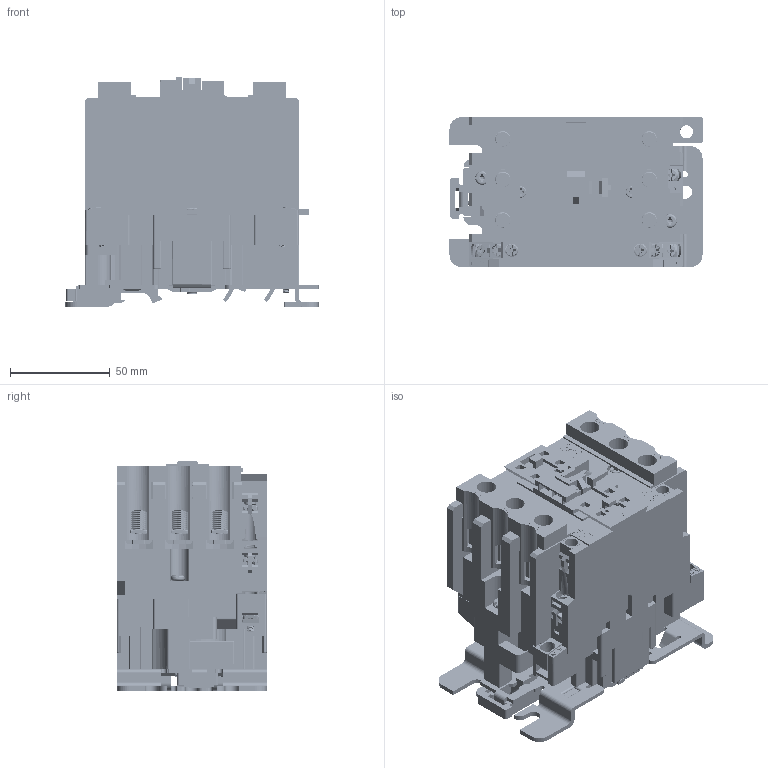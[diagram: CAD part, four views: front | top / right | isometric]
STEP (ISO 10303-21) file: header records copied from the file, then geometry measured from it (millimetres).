
FILE_DESCRIPTION((''),'2;1');
FILE_NAME('CJX2-4000_ASM','2023-07-28T10:37:21',('Administrator'),(''),'CREO PARAMETRIC BY PTC INC, 2020033','CREO PARAMETRIC BY PTC INC, 2020033','');
FILE_SCHEMA(('CONFIG_CONTROL_DESIGN'));
Products named in the file (39): CJX2-40000; CJX2-40100; CJX2-40200; CJX2-40000_ASM; CJX2-4000; CJX2-400009; CJX2-400010; CJX2-400011; M3_5X9_50002; 7_5X2_600; M3_5X9_50001_ASM; CJX2-400008_ASM; CJX2-400021; CJX2-40_A; CJX2-40001; CJX2-400014; CJX2-400015; CJX2-40_AF_ASM; CJX2-40002; M3_5X180001; M3_5X480001; CJX2-400016; CJX2-09000; CJX2-4000_ASM
Assembly tree (107 placements, depth 4):
  CJX2-4000_ASM
    CJX2-40000
    CJX2-40000_ASM
      CJX2-40000  x39
      CJX2-40100  x2
      CJX2-40200
    CJX2-40000  x2
    CJX2-4000
    CJX2-400008_ASM
      CJX2-400009
      CJX2-400010
      CJX2-400011
      M3_5X9_50001_ASM  x3
        M3_5X9_50002
        7_5X2_600
    CJX2-4000
    CJX2-4000
    CJX2-4000
    CJX2-4000
    CJX2-400021
    CJX2-4000
    CJX2-40_A
    CJX2-40_AF_ASM
      CJX2-40001
      CJX2-400014
      CJX2-400015
    CJX2-40_AF_ASM
      CJX2-40001
      CJX2-400014
      CJX2-400015
    CJX2-40_AF_ASM
      CJX2-40001
      CJX2-400014
      CJX2-400015
    CJX2-40_AF_ASM
      CJX2-40001
      CJX2-400014
      CJX2-400015
    CJX2-40_AF_ASM
      CJX2-40001
      CJX2-400014
      CJX2-400015
    CJX2-40_AF_ASM
      CJX2-40001
      CJX2-400014
      CJX2-400015
    CJX2-40002  x6
    M3_5X180001  x2
    M3_5X480001  x2
    CJX2-40002  x2
    CJX2-40002
    CJX2-40002
    CJX2-400016
    CJX2-09000
    M3_5X9_50001_ASM  x4
      M3_5X9_50002
      7_5X2_600
Bounding box: 126.7 x 75.2 x 114.8 mm (x, y, z)
Volume: 568591.6 mm3; surface area: 327636.2 mm2
Topology: 106 solids, 106 shells, 7577 faces, 21395 edges, 14180 vertices
Faces by surface type: plane 5026, cylinder 1964, bspline 435, torus 92, sphere 37, cone 23
Entity records: 158942 total; most frequent: CARTESIAN_POINT 45490, ORIENTED_EDGE 24408, DIRECTION 21802, EDGE_CURVE 12204, VECTOR 10122, LINE 10122, VERTEX_POINT 8090, AXIS2_PLACEMENT_3D 5840
